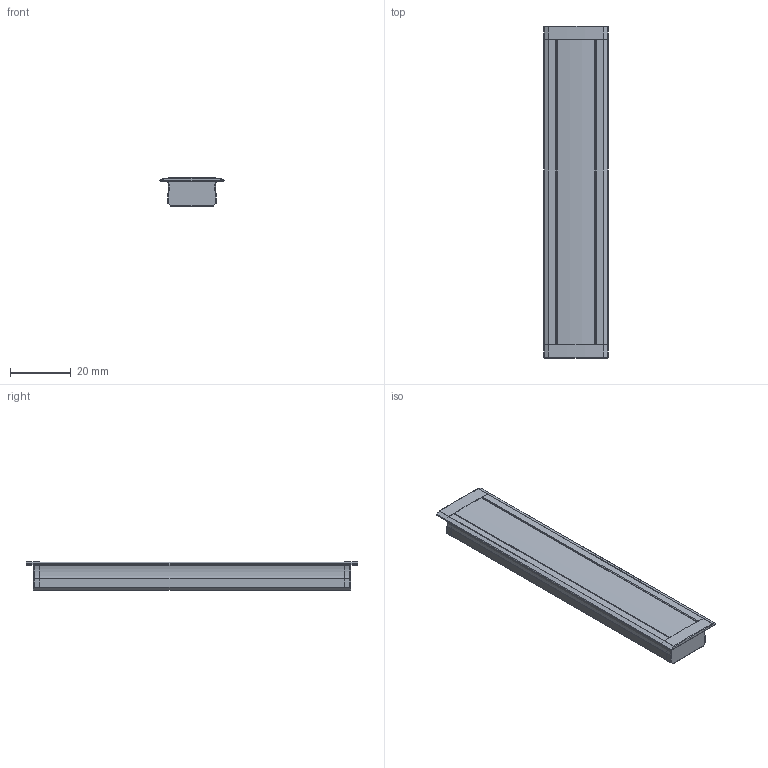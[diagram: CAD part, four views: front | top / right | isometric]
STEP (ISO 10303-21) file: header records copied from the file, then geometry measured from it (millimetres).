
FILE_DESCRIPTION(/* description */ (''),/* implementation_level */ '2;1');
FILE_NAME(/* name */ 'c:\worker\convert-fusion-r02\tmp\job-1\735\output\files\1c870646-3b41-41e9-8459-50c81366e9c0\b96ce157-1ebe-469e-a48c-fcf4dc70353f.stp',/* time_stamp */ '2022-03-30T12:52:47+00:00',/* author */ (''),/* organization */ (''),/* preprocessor_version */ 'ST-DEVELOPER v18.1',/* originating_system */ 'Autodesk Translation Framework v10.14.0.1471',/* authorisation */ '');
FILE_SCHEMA (('AUTOMOTIVE_DESIGN { 1 0 10303 214 3 1 1 }'));
Length unit declared in the file: millimetre
Products named in the file (6): CHAN-2193; LED Strip Light; End Cap; Aluminium Profile; Light Diffuser / Lens; End Cap w/ Cable Out
Assembly tree (6 placements, depth 2):
  CHAN-2193
    LED Strip Light  x2
    End Cap
    Aluminium Profile
    Light Diffuser / Lens
    End Cap w/ Cable Out
Bounding box: 21 x 108.94 x 9.48 mm (x, y, z)
Volume: 9048.3 mm3; surface area: 15668.8 mm2
Topology: 78 solids, 78 shells, 862 faces, 1966 edges, 1256 vertices
Faces by surface type: plane 464, cylinder 276, sphere 72, bspline 28, torus 22
Entity records: 17958 total; most frequent: CARTESIAN_POINT 3350, DIRECTION 3168, ORIENTED_EDGE 2860, EDGE_CURVE 1430, AXIS2_PLACEMENT_3D 1146, VERTEX_POINT 904, LINE 876, VECTOR 876
